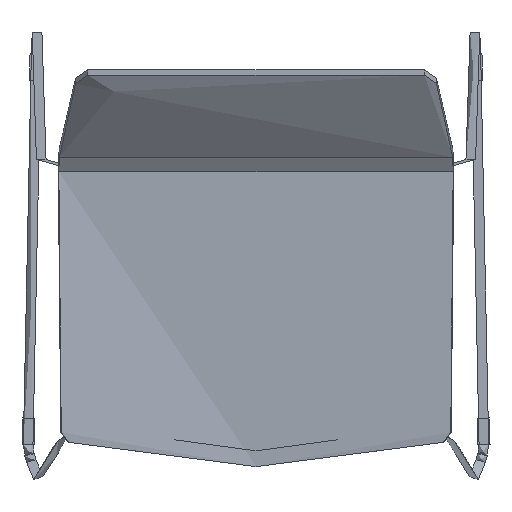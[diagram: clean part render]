
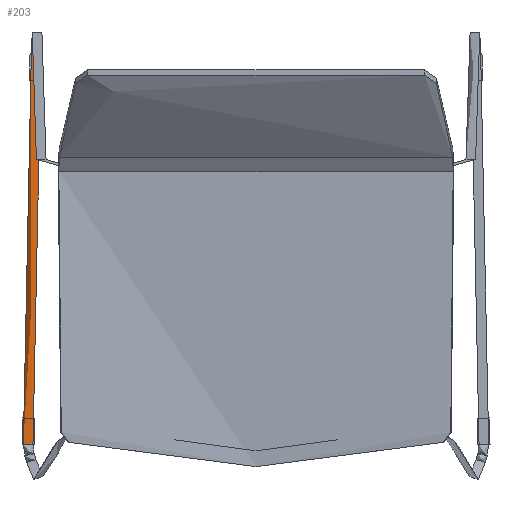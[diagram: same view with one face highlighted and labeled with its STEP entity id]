
A CAD part, top view. The second image highlights one B-rep face of the part: STEP entity #203.
In plain terms, the highlighted free-form (B-spline) face has degree [3, 2] with [4, 5] control points.
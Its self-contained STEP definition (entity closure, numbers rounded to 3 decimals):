
#203=ADVANCED_FACE('',(#344),#1970,.T.);
#344=FACE_OUTER_BOUND('',#485,.T.);
#485=EDGE_LOOP('',(#974,#975,#976,#977));
#974=ORIENTED_EDGE('',*,*,#1316,.F.);
#975=ORIENTED_EDGE('',*,*,#1317,.T.);
#976=ORIENTED_EDGE('',*,*,#1318,.T.);
#977=ORIENTED_EDGE('',*,*,#1343,.F.);
#1316=EDGE_CURVE('',#1854,#1867,#1622,.T.);
#1317=EDGE_CURVE('',#1854,#1855,#1623,.T.);
#1318=EDGE_CURVE('',#1855,#1868,#1624,.T.);
#1343=EDGE_CURVE('',#1867,#1868,#1649,.T.);
#1622=(
BOUNDED_CURVE()
B_SPLINE_CURVE(2,(#7399,#7400,#7401,#7402,#7403),.UNSPECIFIED.,.F.,.F.)
B_SPLINE_CURVE_WITH_KNOTS((3,2,3),(0.,8.639,17.279),
 .UNSPECIFIED.)
CURVE()
GEOMETRIC_REPRESENTATION_ITEM()
RATIONAL_B_SPLINE_CURVE((1.,0.707,1.,0.707,1.))
REPRESENTATION_ITEM('')
);
#1623=(
BOUNDED_CURVE()
B_SPLINE_CURVE(3,(#7404,#7405,#7406,#7407),.UNSPECIFIED.,.F.,.F.)
B_SPLINE_CURVE_WITH_KNOTS((4,4),(0.,450.399),.UNSPECIFIED.)
CURVE()
GEOMETRIC_REPRESENTATION_ITEM()
RATIONAL_B_SPLINE_CURVE((1.,1.,1.,1.))
REPRESENTATION_ITEM('')
);
#1624=(
BOUNDED_CURVE()
B_SPLINE_CURVE(2,(#7408,#7409,#7410,#7411,#7412),.UNSPECIFIED.,.F.,.F.)
B_SPLINE_CURVE_WITH_KNOTS((3,2,3),(0.,8.639,17.279),
 .UNSPECIFIED.)
CURVE()
GEOMETRIC_REPRESENTATION_ITEM()
RATIONAL_B_SPLINE_CURVE((1.,0.707,1.,0.707,1.))
REPRESENTATION_ITEM('')
);
#1649=(
BOUNDED_CURVE()
B_SPLINE_CURVE(3,(#7579,#7580,#7581,#7582),.UNSPECIFIED.,.F.,.F.)
B_SPLINE_CURVE_WITH_KNOTS((4,4),(0.,450.399),.UNSPECIFIED.)
CURVE()
GEOMETRIC_REPRESENTATION_ITEM()
RATIONAL_B_SPLINE_CURVE((1.,1.,1.,1.))
REPRESENTATION_ITEM('')
);
#1854=VERTEX_POINT('',#7290);
#1855=VERTEX_POINT('',#7291);
#1867=VERTEX_POINT('',#7303);
#1868=VERTEX_POINT('',#7304);
#1970=(
BOUNDED_SURFACE()
B_SPLINE_SURFACE(3,2,((#6987,#6988,#6989,#6990,#6991),(#6992,#6993,#6994,
#6995,#6996),(#6997,#6998,#6999,#7000,#7001),(#7002,#7003,#7004,#7005,#7006)),
 .UNSPECIFIED.,.F.,.F.,.F.)
B_SPLINE_SURFACE_WITH_KNOTS((4,4),(3,2,3),(0.,450.399),(0.,8.639,
17.279),.UNSPECIFIED.)
GEOMETRIC_REPRESENTATION_ITEM()
RATIONAL_B_SPLINE_SURFACE(((1.,0.707,1.,0.707,1.),
(1.,0.707,1.,0.707,1.),(1.,0.707,1.,
0.707,1.),(1.,0.707,1.,0.707,1.)))
REPRESENTATION_ITEM('')
SURFACE()
);
#6987=CARTESIAN_POINT('',(-254.378,-184.092,7.929));
#6988=CARTESIAN_POINT('',(-254.307,-184.094,13.429));
#6989=CARTESIAN_POINT('',(-259.805,-183.981,13.5));
#6990=CARTESIAN_POINT('',(-265.304,-183.868,13.571));
#6991=CARTESIAN_POINT('',(-265.375,-183.866,8.071));
#6992=CARTESIAN_POINT('',(-251.293,-33.991,7.929));
#6993=CARTESIAN_POINT('',(-251.222,-33.993,13.429));
#6994=CARTESIAN_POINT('',(-256.72,-33.88,13.5));
#6995=CARTESIAN_POINT('',(-262.218,-33.767,13.571));
#6996=CARTESIAN_POINT('',(-262.289,-33.765,8.071));
#6997=CARTESIAN_POINT('',(-248.207,116.11,7.929));
#6998=CARTESIAN_POINT('',(-248.136,116.109,13.429));
#6999=CARTESIAN_POINT('',(-253.635,116.222,13.5));
#7000=CARTESIAN_POINT('',(-259.133,116.335,13.571));
#7001=CARTESIAN_POINT('',(-259.204,116.336,8.071));
#7002=CARTESIAN_POINT('',(-245.122,266.211,7.929));
#7003=CARTESIAN_POINT('',(-245.051,266.21,13.429));
#7004=CARTESIAN_POINT('',(-250.55,266.323,13.5));
#7005=CARTESIAN_POINT('',(-256.048,266.436,13.571));
#7006=CARTESIAN_POINT('',(-256.119,266.437,8.071));
#7290=CARTESIAN_POINT('',(-254.378,-184.092,7.929));
#7291=CARTESIAN_POINT('',(-245.122,266.211,7.929));
#7303=CARTESIAN_POINT('',(-265.375,-183.866,8.071));
#7304=CARTESIAN_POINT('',(-256.119,266.437,8.071));
#7399=CARTESIAN_POINT('',(-254.378,-184.092,7.929));
#7400=CARTESIAN_POINT('',(-254.307,-184.094,13.429));
#7401=CARTESIAN_POINT('',(-259.805,-183.981,13.5));
#7402=CARTESIAN_POINT('',(-265.304,-183.868,13.571));
#7403=CARTESIAN_POINT('',(-265.375,-183.866,8.071));
#7404=CARTESIAN_POINT('',(-254.378,-184.092,7.929));
#7405=CARTESIAN_POINT('',(-251.293,-33.991,7.929));
#7406=CARTESIAN_POINT('',(-248.207,116.11,7.929));
#7407=CARTESIAN_POINT('',(-245.122,266.211,7.929));
#7408=CARTESIAN_POINT('',(-245.122,266.211,7.929));
#7409=CARTESIAN_POINT('',(-245.051,266.21,13.429));
#7410=CARTESIAN_POINT('',(-250.55,266.323,13.5));
#7411=CARTESIAN_POINT('',(-256.048,266.436,13.571));
#7412=CARTESIAN_POINT('',(-256.119,266.437,8.071));
#7579=CARTESIAN_POINT('',(-265.375,-183.866,8.071));
#7580=CARTESIAN_POINT('',(-262.289,-33.765,8.071));
#7581=CARTESIAN_POINT('',(-259.204,116.336,8.071));
#7582=CARTESIAN_POINT('',(-256.119,266.437,8.071));
